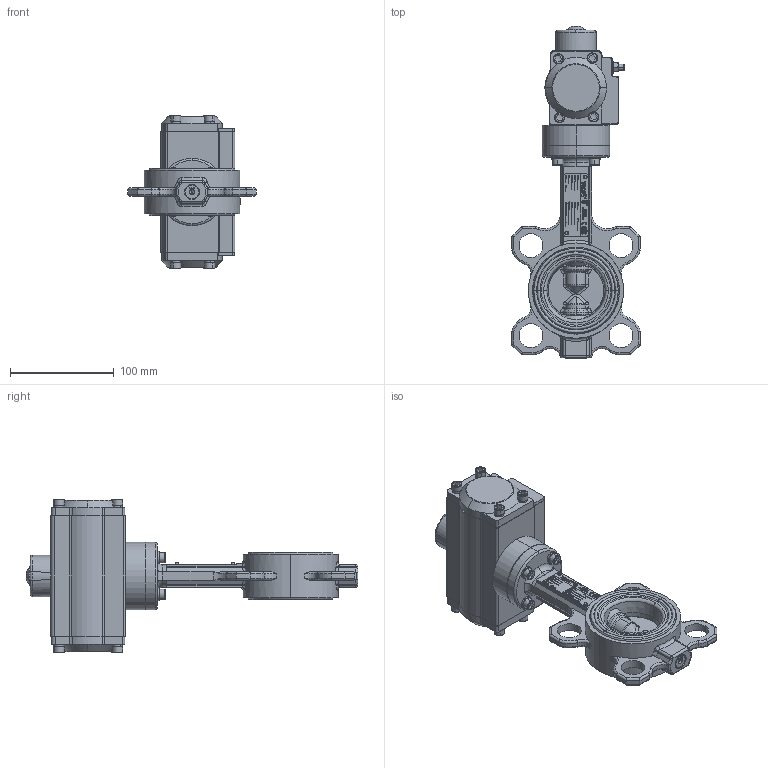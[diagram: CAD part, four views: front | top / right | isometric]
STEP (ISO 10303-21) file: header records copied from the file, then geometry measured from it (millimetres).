
FILE_DESCRIPTION (( 'STEP AP203' ), '1' );
FILE_NAME ('VPN-03 DN50.STEP', '2014-06-20T07:31:16', ( 'FAREX' ), ( '' ), 'SwSTEP 2.0', 'SolidWorks 2011', '' );
FILE_SCHEMA (( 'CONFIG_CONTROL_DESIGN' ));
Products named in the file (1): VPN-03 DN50
Bounding box: 124 x 320.52 x 148.56 mm (x, y, z)
Volume: 770259 mm3; surface area: 265777.8 mm2
Topology: 69 solids, 69 shells, 4716 faces, 11701 edges, 7562 vertices
Faces by surface type: plane 1729, bspline 1667, cylinder 793, cone 343, torus 172, sphere 12
Entity records: 206793 total; most frequent: CARTESIAN_POINT 105968, ORIENTED_EDGE 23330, DIRECTION 15936, EDGE_CURVE 11665, VERTEX_POINT 7562, LINE 5410, VECTOR 5410, EDGE_LOOP 5339
